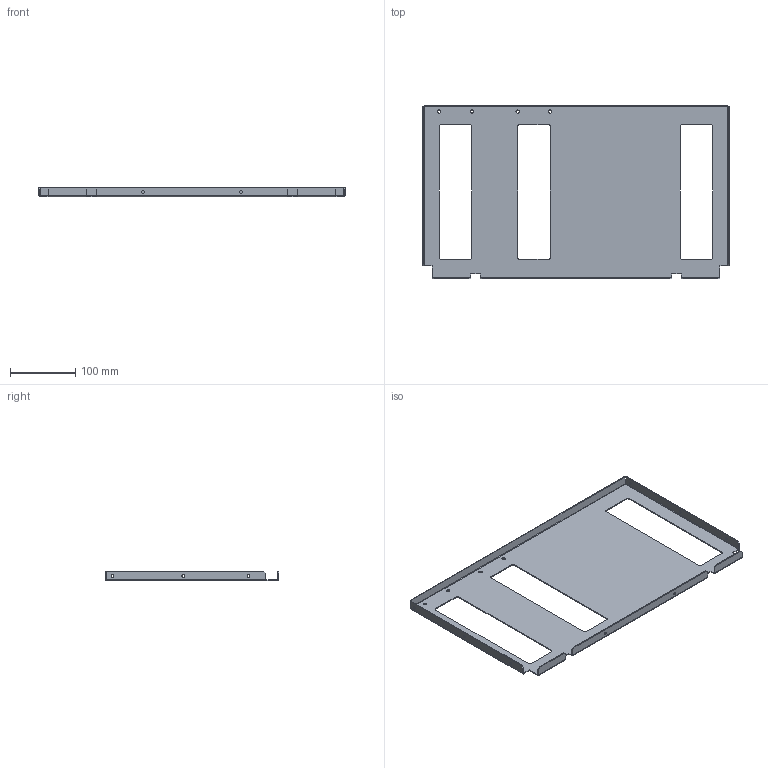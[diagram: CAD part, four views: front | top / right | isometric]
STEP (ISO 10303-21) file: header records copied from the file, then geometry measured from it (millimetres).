
FILE_DESCRIPTION(('CAx-IF Rec.Pracs.---Model Styling and Organization---1.2---2011-12-15','CAx-IF Rec.Pracs.---Geometric and Assembly Validation Properties---4.1---2014-06-16','CAx-IF Rec.Pracs.---PMI Polyline Presentation---2.0---2013-05-24'),'2;1');
FILE_NAME('R5M2W6M1BP.stp','2021-05-05T12:32:57+03:00',(''),(''),'STEP Interface 4.4 by CT CoreTechnologie','3D_Evolution4.4 by CT CoreTechnologie','');
FILE_SCHEMA(('AUTOMOTIVE_DESIGN { 1 0 10303 214 1 1 1 1 }'));
Length unit declared in the file: millimetre
Products named in the file (2): R5M2W6M1BP; RB.1511.00.00.0_-03
Assembly tree (1 placements, depth 2):
  R5M2W6M1BP
    RB.1511.00.00.0_-03
Bounding box: 469 x 266.5 x 15 mm (x, y, z)
Surface area: 226259.1 mm2 (no closed solid volume)
Topology: 0 solids, 1 shells, 112 faces, 302 edges, 192 vertices
Faces by surface type: plane 60, cylinder 48, bspline 4
Entity records: 3695 total; most frequent: CARTESIAN_POINT 684, DIRECTION 618, ORIENTED_EDGE 604, EDGE_CURVE 302, AXIS2_PLACEMENT_3D 206, VECTOR 206, LINE 206, VERTEX_POINT 192
